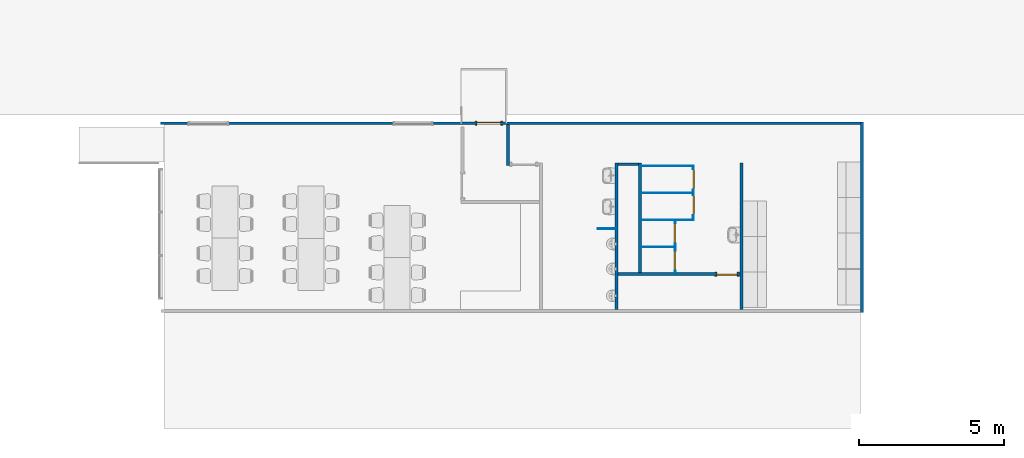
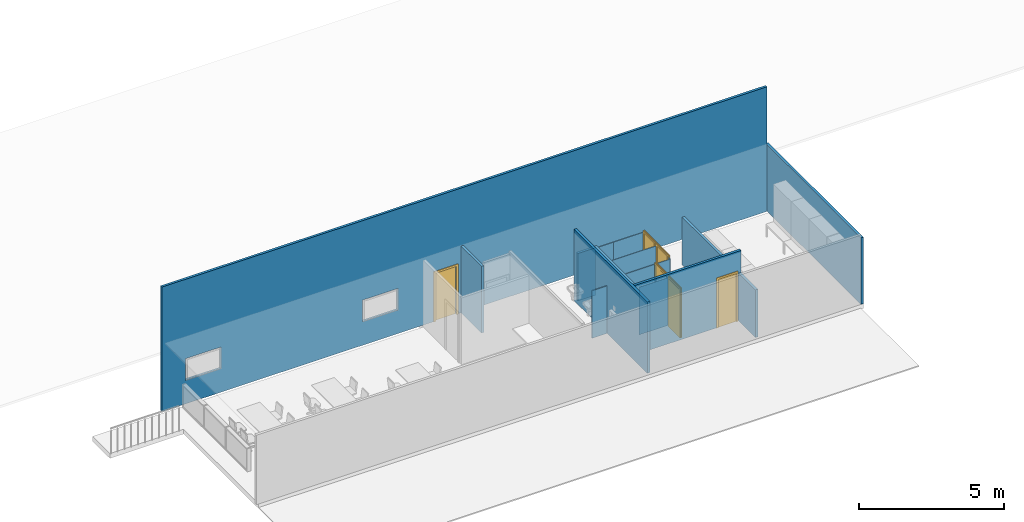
# One storey, part 3 of 6: 16 walls, 6 doors, 9 openings.
"""IFC2X3 building model written with IfcOpenShell, lengths in millimetres."""

from ifc_helpers import new_model, entity, si_unit, converted_unit, derived_unit, direction, frame, frame_2d, origin, origin_2d_with_axis, place, context, subcontext, project, spatial, polyline, rectangle, outline, extrude, clip, halfspace, bounded_halfspace, source, transform, mapped, material, material_list, layer, layer_set, layer_usage, type_object, type_shapes, element, fill, save


model = new_model("IFC2X3")

# Units and contexts
model_context = context("Model", 3, precision=0.01, world=origin(), true_north=direction((4.05803320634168e-15, -1.0)))
body_context = subcontext(model_context, "Body", "Model", "MODEL_VIEW")
ifc_project = project(units=[si_unit("LENGTHUNIT", "METRE", prefix="MILLI"), si_unit("AREAUNIT", "SQUARE_METRE"), si_unit("VOLUMEUNIT", "CUBIC_METRE"), converted_unit("PLANEANGLEUNIT", "DEGREE", entity("IfcRatioMeasure", 0.0174532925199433), si_unit("PLANEANGLEUNIT", "RADIAN"), dimensions=[0, 0, 0, 0, 0, 0, 0]), si_unit("MASSUNIT", "GRAM", prefix="KILO"), derived_unit("MASSDENSITYUNIT", [(si_unit("MASSUNIT", "GRAM", prefix="KILO"), 1), (si_unit("LENGTHUNIT", "METRE"), -3)]), si_unit("TIMEUNIT", "SECOND"), si_unit("FREQUENCYUNIT", "HERTZ"), si_unit("THERMODYNAMICTEMPERATUREUNIT", "DEGREE_CELSIUS"), derived_unit("THERMALTRANSMITTANCEUNIT", [(si_unit("MASSUNIT", "GRAM", prefix="KILO"), 1), (si_unit("THERMODYNAMICTEMPERATUREUNIT", "KELVIN"), -1), (si_unit("TIMEUNIT", "SECOND"), -3)]), derived_unit("VOLUMETRICFLOWRATEUNIT", [(si_unit("LENGTHUNIT", "METRE"), 3), (si_unit("TIMEUNIT", "SECOND"), -1)]), si_unit("ELECTRICCURRENTUNIT", "AMPERE"), si_unit("ELECTRICVOLTAGEUNIT", "VOLT"), si_unit("POWERUNIT", "WATT"), si_unit("FORCEUNIT", "NEWTON", prefix="KILO"), si_unit("ILLUMINANCEUNIT", "LUX"), si_unit("LUMINOUSFLUXUNIT", "LUMEN"), si_unit("LUMINOUSINTENSITYUNIT", "CANDELA"), derived_unit("USERDEFINED", [(si_unit("MASSUNIT", "GRAM", prefix="KILO"), -1), (si_unit("LENGTHUNIT", "METRE"), -2), (si_unit("TIMEUNIT", "SECOND"), 3), (si_unit("LUMINOUSFLUXUNIT", "LUMEN"), 1)]), derived_unit("LINEARVELOCITYUNIT", [(si_unit("LENGTHUNIT", "METRE"), 1), (si_unit("TIMEUNIT", "SECOND"), -1)]), si_unit("PRESSUREUNIT", "PASCAL"), derived_unit("USERDEFINED", [(si_unit("LENGTHUNIT", "METRE"), -2), (si_unit("MASSUNIT", "GRAM", prefix="KILO"), 1), (si_unit("TIMEUNIT", "SECOND"), -2)])], contexts=[model_context])

# Site, building, storey
site_placement = place(None, frame((927466.849349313, 583801.882853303, 0.0), z_axis=(0.0, 0.0, 1.0), x_axis=(-1.0, 0.0, 0.0)))
site = spatial("IfcSite", under=ifc_project, at=site_placement, Name="Surface", CompositionType="ELEMENT")
building_placement = place(site_placement, origin())
building = spatial("IfcBuilding", under=site, at=building_placement, CompositionType="ELEMENT")
storey_placement = place(building_placement, frame((0.0, 0.0, 51027.1066036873)))
storey = spatial("IfcBuildingStorey", under=building, at=storey_placement, Name="2nd floor", CompositionType="ELEMENT", Elevation=51027.1066036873)

# Wall, openings, door
ifc_material_1 = material(Name="Isopenal")
ifc_layer_1 = layer(ifc_material_1, 100.0)
ifc_layer_set_1 = layer_set([ifc_layer_1], Name="Basic Wall:Isopanel")
ifc_layer_usage_1 = layer_usage(ifc_layer_set_1, "AXIS2", "NEGATIVE", 50.0)
wall_type_1 = type_object("IfcWallType", Name="Basic Wall:Isopanel", PredefinedType="STANDARD", material=ifc_layer_set_1)
wall_1_placement = place(storey_placement, frame((-80781.59177989, 11958.2777512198, 0.0), z_axis=(0.0, 0.0, 1.0), x_axis=(-1.0, 0.0, 0.0)))
wall_1 = element("IfcWallStandardCase", 1, at=wall_1_placement, inside=storey, type_object=wall_type_1, material=ifc_layer_usage_1, Name="Basic Wall:Isopanel", ObjectType="Basic Wall:Isopanel", context=body_context, shape_type="SweptSolid", body=[
    extrude(rectangle(XDim=24066.3454969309, YDim=99.9999999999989, at=frame_2d((12033.1727484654, -2.77111666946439e-13), x_axis=(-1.0, 0.0))), origin(), (0.0, 0.0, 1.0), 5239.99999999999),
])
opening_1_placement = place(wall_1_placement, origin())
element("IfcOpeningElement", 2, at=opening_1_placement, cuts=wall_1, Name="Basic Wall:Isopanel", ObjectType="Opening", context=body_context, shape_type="SweptSolid", body=[
    extrude(rectangle(XDim=908.330788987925, YDim=1399.99999999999, at=frame_2d((0.0, 0.0), x_axis=(0.0, 1.0))), frame((1641.55366934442, -202.400000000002, 1445.83460550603), z_axis=(0.0, 1.0, 0.0), x_axis=(-1.0, 0.0, 0.0)), (0.0, 0.0, 1.0), 404.800000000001),
])
opening_2_placement = place(wall_1_placement, origin())
element("IfcOpeningElement", 3, at=opening_2_placement, cuts=wall_1, Name="Basic Wall:Isopanel", ObjectType="Opening", context=body_context, shape_type="SweptSolid", body=[
    extrude(rectangle(XDim=908.330788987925, YDim=1399.99999999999, at=frame_2d((0.0, 0.0), x_axis=(0.0, 1.0))), frame((8681.55366934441, -202.400000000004, 1445.83460550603), z_axis=(0.0, 1.0, 0.0), x_axis=(-1.0, 0.0, 0.0)), (0.0, 0.0, 1.0), 404.800000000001),
])
opening_3_placement = place(wall_1_placement, frame((10880.3370887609, -50.0, 0.0)))
opening_3 = element("IfcOpeningElement", 4, at=opening_3_placement, cuts=wall_1, Name="M_Single-Flush:0813 x 2030mm:1", ObjectType="Opening", context=body_context, shape_type="SweptSolid", body=[
    extrude(rectangle(XDim=813.0, YDim=2030.0, at=frame_2d((1015.0, 406.500000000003), x_axis=(0.0, 1.0))), frame((0.0, 0.0, 0.0), z_axis=(0.0, 1.0, 0.0), x_axis=(0.0, 0.0, 1.0)), (0.0, 0.0, 1.0), 100.0),
])
ifc_material_2 = material(Name="Door - Frame")
ifc_material_3 = material(Name="Door - Panel")
ifc_material_list_1 = material_list([ifc_material_2, ifc_material_3])
ifc_material_list_2 = material_list([ifc_material_2, ifc_material_3])
door_style_1 = type_object("IfcDoorStyle", Name="0813 x 2030mm", ConstructionType="NOTDEFINED", OperationType="SINGLE_SWING_RIGHT", ParameterTakesPrecedence=False, Sizeable=False, material=ifc_material_list_2)
shared_shape_1 = source(origin(), body_context, "Body", "SweptSolid", [
    extrude(outline(polyline([(-482.5, -1072.0), (482.5, -1072.0), (482.5, 1034.0), (406.5, 1034.0), (406.5, -996.0), (-406.5, -996.0), (-406.5, 1034.0), (-482.5, 1034.0), (-482.5, -1072.0)])), frame((406.500000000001, 100.0, 1034.0), z_axis=(0.0, 1.0, 0.0), x_axis=(1.0, 0.0, 0.0)), (0.0, 0.0, 1.0), 24.9999999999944),
    extrude(outline(polyline([(-1072.0, -482.499999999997), (1034.0, -482.499999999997), (1034.0, -406.500000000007), (-996.0, -406.500000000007), (-996.0, 406.500000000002), (1034.0, 406.500000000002), (1034.0, 482.500000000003), (-1072.0, 482.500000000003), (-1072.0, -482.499999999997)])), frame((406.500000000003, -25.0, 1034.0), z_axis=(0.0, 1.0, 0.0), x_axis=(0.0, 0.0, -1.0)), (0.0, 0.0, 1.0), 25.0000000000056),
    extrude(rectangle(XDim=51.0, YDim=813.0, at=origin_2d_with_axis()), frame((406.500000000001, 74.4999999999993, 0.0), z_axis=(0.0, 0.0, 1.0), x_axis=(0.0, 1.0, 0.0)), (0.0, 0.0, 1.0), 2030.0),
])
type_shapes(door_style_1, [shared_shape_1])
door_1_placement = place(opening_3_placement, origin())
door_1 = element("IfcDoor", 5, at=door_1_placement, inside=storey, type_object=door_style_1, material=ifc_material_list_1, Name="M_Single-Flush:0813 x 2030mm", ObjectType="0813 x 2030mm", OverallHeight=2030.0, OverallWidth=813.000000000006, context=body_context, shape_type="MappedRepresentation", body=[
    mapped(shared_shape_1, transform((0.0, 0.0, 0.0), scale=1.0)),
])
fill(opening_3, door_1)

# Walls
ifc_material_4 = material(Name="Partition")
ifc_layer_2 = layer(ifc_material_4, 100.0)
ifc_layer_set_2 = layer_set([ifc_layer_2], Name="Basic Wall:wall 90 Partition")
ifc_layer_usage_2 = layer_usage(ifc_layer_set_2, "AXIS2", "NEGATIVE", 50.0)
wall_type_2 = type_object("IfcWallType", Name="Basic Wall:wall 90 Partition", PredefinedType="STANDARD", material=ifc_layer_set_2)
wall_2_placement = place(storey_placement, frame((-104897.937276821, 18469.2777512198, 0.0), z_axis=(0.0, 0.0, 1.0), x_axis=(0.0, -1.0, 0.0)))
element("IfcWallStandardCase", 6, at=wall_2_placement, inside=storey, type_object=wall_type_2, material=ifc_layer_usage_2, Name="Basic Wall:wall 90 Partition", ObjectType="Basic Wall:wall 90 Partition", context=body_context, shape_type="Clipping", body=[
    clip(extrude(rectangle(XDim=6560.9999999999, YDim=100.000000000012, at=frame_2d((3280.49999999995, 6.00408611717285e-13), x_axis=(-1.0, 0.0))), origin(), (0.0, 0.0, 1.0), 2799.99999999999), halfspace(frame((0.0, -50.0, 2800.0), z_axis=(0.0, 0.0, 1.0), x_axis=(0.0, 1.0, 0.0)), False)),
])
ifc_layer_usage_3 = layer_usage(ifc_layer_set_2, "AXIS2", "POSITIVE", -50.0)
wall_3_placement = place(storey_placement, frame((-96458.8066426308, 13319.2679026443, 0.0), z_axis=(0.0, 0.0, 1.0), x_axis=(0.0, 1.0, 0.0)))
element("IfcWallStandardCase", 7, at=wall_3_placement, inside=storey, type_object=wall_type_2, material=ifc_layer_usage_3, Name="Basic Wall:wall 90 Partition", ObjectType="Basic Wall:wall 90 Partition", context=body_context, shape_type="SweptSolid", body=[
    extrude(rectangle(XDim=5050.00984857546, YDim=100.000000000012, at=frame_2d((2525.00492428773, 0.0), x_axis=(-1.0, 0.0))), origin(), (0.0, 0.0, 1.0), 3000.00000000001),
])
ifc_layer_usage_4 = layer_usage(ifc_layer_set_2, "AXIS2", "POSITIVE", -50.0)
wall_4_placement = place(storey_placement, frame((-97258.8066426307, 13319.2679026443, 0.0), z_axis=(0.0, 0.0, 1.0), x_axis=(0.0, 1.0, 0.0)))
element("IfcWallStandardCase", 8, at=wall_4_placement, inside=storey, type_object=wall_type_2, material=ifc_layer_usage_4, Name="Basic Wall:wall 90 Partition", ObjectType="Basic Wall:wall 90 Partition", context=body_context, shape_type="SweptSolid", body=[
    extrude(rectangle(XDim=3780.00000000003, YDim=100.000000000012, at=frame_2d((1890.00000000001, 0.0), x_axis=(-1.0, 0.0))), origin(), (0.0, 0.0, 1.0), 2000.0),
])
ifc_layer_usage_5 = layer_usage(ifc_layer_set_2, "AXIS2", "NEGATIVE", 50.0)
wall_5_placement = place(storey_placement, frame((-96508.8066426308, 13369.2679026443, 0.0), z_axis=(0.0, 0.0, 1.0), x_axis=(-1.0, 0.0, 0.0)))
element("IfcWallStandardCase", 9, at=wall_5_placement, inside=storey, type_object=wall_type_2, material=ifc_layer_usage_5, Name="Basic Wall:wall 90 Partition", ObjectType="Basic Wall:wall 90 Partition", context=body_context, shape_type="SweptSolid", body=[
    extrude(rectangle(XDim=699.999999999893, YDim=99.9999999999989, at=frame_2d((349.999999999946, -2.45137243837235e-13), x_axis=(-1.0, 0.0))), origin(), (0.0, 0.0, 1.0), 2000.0),
])
ifc_layer_usage_6 = layer_usage(ifc_layer_set_2, "AXIS2", "POSITIVE", -50.0)
wall_6_placement = place(storey_placement, frame((-100758.819923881, 13319.2679026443, 0.0), z_axis=(0.0, 0.0, 1.0), x_axis=(0.0, 1.0, 0.0)))
element("IfcWallStandardCase", 10, at=wall_6_placement, inside=storey, type_object=wall_type_2, material=ifc_layer_usage_6, Name="Basic Wall:wall 90 Partition", ObjectType="Basic Wall:wall 90 Partition", context=body_context, shape_type="SweptSolid", body=[
    extrude(rectangle(XDim=5050.00984857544, YDim=100.000000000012, at=frame_2d((2525.00492428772, 0.0), x_axis=(-1.0, 0.0))), origin(), (0.0, 0.0, 1.0), 2000.0),
])
ifc_layer_usage_7 = layer_usage(ifc_layer_set_2, "AXIS2", "POSITIVE", -50.0)
wall_7_placement = place(storey_placement, frame((-92724.9288686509, 12008.2777512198, 0.0), z_axis=(0.0, 0.0, 1.0), x_axis=(0.0, 1.0, 0.0)))
element("IfcWallStandardCase", 11, at=wall_7_placement, inside=storey, type_object=wall_type_2, material=ifc_layer_usage_7, Name="Basic Wall:wall 90 Partition", ObjectType="Basic Wall:wall 90 Partition", context=body_context, shape_type="SweptSolid", body=[
    extrude(rectangle(XDim=1410.99015142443, YDim=100.000000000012, at=frame_2d((705.495075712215, 0.0), x_axis=(-1.0, 0.0))), origin(), (0.0, 0.0, 1.0), 2799.99999999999),
])

# Wall, openings, door
ifc_layer_usage_8 = layer_usage(ifc_layer_set_2, "AXIS2", "NEGATIVE", 50.0)
wall_8_placement = place(storey_placement, frame((-96508.8066426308, 17149.2679026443, 0.0), z_axis=(0.0, 0.0, 1.0), x_axis=(-1.0, 0.0, 0.0)))
wall_8 = element("IfcWallStandardCase", 12, at=wall_8_placement, inside=storey, type_object=wall_type_2, material=ifc_layer_usage_8, Name="Basic Wall:wall 90 Partition", ObjectType="Basic Wall:wall 90 Partition", context=body_context, shape_type="Clipping", body=[
    clip(clip(extrude(rectangle(XDim=4300.01328125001, YDim=99.9999999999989, at=frame_2d((2150.00664062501, -2.41584530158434e-13), x_axis=(-1.0, 0.0))), origin(), (0.0, 0.0, 1.0), 2919.99999999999), bounded_halfspace(frame((4200.01328125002, 50.0, 2000.0), z_axis=(-1.0, 0.0, 0.0), x_axis=(0.0, -1.0, 0.0)), True, frame((4200.01328125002, 50.0, 2000.0), z_axis=(-1.0, 0.0, 0.0), x_axis=(0.0, -1.0, 0.0)), polyline([(0.0, 0.0), (0.0, -2000.0), (100.0, -2000.0), (100.0, 0.0), (0.0, 0.0)]))), bounded_halfspace(frame((4200.01328125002, -50.0, 2000.0)), True, frame((4200.01328125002, -50.0, 2000.0)), polyline([(0.0, 0.0), (100.0, 0.0), (100.0, 100.0), (0.0, 100.0), (0.0, 0.0)]))),
])
opening_4_placement = place(wall_8_placement, origin())
element("IfcOpeningElement", 13, at=opening_4_placement, cuts=wall_8, Name="Basic Wall:wall 90 Partition", ObjectType="Opening", context=body_context, shape_type="SweptSolid", body=[
    extrude(rectangle(XDim=2030.0, YDim=21.999999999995, at=frame_2d((0.0, 4.32009983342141e-12), x_axis=(0.0, 1.0))), frame((1969.0, 113.992495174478, 1015.0), z_axis=(0.0, 1.0, 0.0), x_axis=(1.0, 0.0, 0.0)), (0.0, 0.0, 1.0), 699.999999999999),
])
opening_5_placement = place(wall_8_placement, frame((4100.01328125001, 50.0, 0.0)))
opening_5 = element("IfcOpeningElement", 14, at=opening_5_placement, cuts=wall_8, Name="M_Single-Flush:700 x 2030mm:1", ObjectType="Opening", context=body_context, shape_type="SweptSolid", body=[
    extrude(rectangle(XDim=700.0, YDim=2030.0, at=frame_2d((1015.0, 350.000000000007), x_axis=(0.0, -1.0))), frame((0.0, 0.0, 0.0), z_axis=(0.0, -1.0, 0.0), x_axis=(0.0, 0.0, 1.0)), (0.0, 0.0, 1.0), 100.0),
])
ifc_material_list_3 = material_list([ifc_material_2, ifc_material_3])
ifc_material_list_4 = material_list([ifc_material_2, ifc_material_3])
door_style_2 = type_object("IfcDoorStyle", Name="700 x 2030mm", ConstructionType="NOTDEFINED", OperationType="SINGLE_SWING_LEFT", ParameterTakesPrecedence=False, Sizeable=False, material=ifc_material_list_4)
shared_shape_2 = source(origin(), body_context, "Body", "SweptSolid", [
    extrude(outline(polyline([(-426.0, -1072.0), (426.0, -1072.0), (426.0, 1034.0), (350.0, 1034.0), (350.0, -996.0), (-350.0, -996.0), (-350.0, 1034.0), (-426.0, 1034.0), (-426.0, -1072.0)])), frame((350.0, 125.0, 1034.0), z_axis=(0.0, -1.0, 0.0), x_axis=(-1.0, 0.0, 0.0)), (0.0, 0.0, 1.0), 24.9999999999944),
    extrude(outline(polyline([(-1072.0, -426.0), (1034.0, -426.0), (1034.0, -350.0), (-996.0, -350.0), (-996.0, 350.0), (1034.0, 350.0), (1034.0, 426.0), (-1072.0, 426.0), (-1072.0, -426.0)])), frame((350.0, 0.0, 1034.0), z_axis=(0.0, -1.0, 0.0), x_axis=(0.0, 0.0, -1.0)), (0.0, 0.0, 1.0), 25.0000000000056),
    extrude(rectangle(XDim=700.0, YDim=51.0, at=origin_2d_with_axis()), frame((350.0, 74.4999999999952, 0.0)), (0.0, 0.0, 1.0), 2030.0),
])
type_shapes(door_style_2, [shared_shape_2])
door_2_placement = place(opening_5_placement, frame((0.0, 0.0, 0.0), z_axis=(0.0, 0.0, 1.0), x_axis=(-1.0, 0.0, 0.0)))
door_2 = element("IfcDoor", 15, at=door_2_placement, inside=storey, type_object=door_style_2, material=ifc_material_list_3, Name="M_Single-Flush:700 x 2030mm", ObjectType="700 x 2030mm", OverallHeight=2030.0, OverallWidth=700.000000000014, context=body_context, shape_type="MappedRepresentation", body=[
    mapped(shared_shape_2, transform((0.0, 0.0, 0.0), scale=1.0)),
])
fill(opening_5, door_2)

# Wall
ifc_layer_3 = layer(ifc_material_4, 22.0)
ifc_layer_set_3 = layer_set([ifc_layer_3], Name="Basic Wall:22 Partition")
ifc_layer_usage_9 = layer_usage(ifc_layer_set_3, "AXIS2", "POSITIVE", -11.0)
wall_type_3 = type_object("IfcWallType", Name="Basic Wall:22 Partition", PredefinedType="STANDARD", material=ifc_layer_set_3)
wall_9_placement = place(storey_placement, frame((-97905.4734789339, 13430.2679026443, 0.0)))
element("IfcWallStandardCase", 16, at=wall_9_placement, inside=storey, type_object=wall_type_3, material=ifc_layer_usage_9, Name="Basic Wall:22 Partition", ObjectType="Basic Wall:22 Partition", context=body_context, shape_type="SweptSolid", body=[
    extrude(rectangle(XDim=596.666836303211, YDim=21.9999999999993, at=frame_2d((298.333418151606, 7.99360577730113e-15), x_axis=(-1.0, 0.0))), origin(), (0.0, 0.0, 1.0), 2000.0),
])

# Wall, openings, doors
ifc_layer_usage_10 = layer_usage(ifc_layer_set_3, "AXIS2", "NEGATIVE", 11.0)
wall_10_placement = place(storey_placement, frame((-99097.8066426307, 13419.2679026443, 0.0), z_axis=(0.0, 0.0, 1.0), x_axis=(0.0, 1.0, 0.0)))
wall_10 = element("IfcWallStandardCase", 17, at=wall_10_placement, inside=storey, type_object=wall_type_3, material=ifc_layer_usage_10, Name="Basic Wall:22 Partition", ObjectType="Basic Wall:22 Partition", context=body_context, shape_type="SweptSolid", body=[
    extrude(rectangle(XDim=1882.00428216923, YDim=21.999999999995, at=frame_2d((941.002141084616, 0.0), x_axis=(-1.0, 0.0))), origin(), (0.0, 0.0, 1.0), 2000.0),
])
opening_6_placement = place(wall_10_placement, frame((1712.00213373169, 11.0, 0.0)))
opening_6 = element("IfcOpeningElement", 18, at=opening_6_placement, cuts=wall_10, Name="M_Single-Flush:700 x 2030mm:1", ObjectType="Opening", context=body_context, shape_type="SweptSolid", body=[
    extrude(rectangle(XDim=700.0, YDim=2030.0, at=frame_2d((1015.0, 350.000000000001), x_axis=(0.0, -1.0))), frame((0.0, 0.0, 0.0), z_axis=(0.0, -1.0, 0.0), x_axis=(0.0, 0.0, 1.0)), (0.0, 0.0, 1.0), 22.0),
])
opening_7_placement = place(wall_10_placement, frame((826.001066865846, 11.0, 0.0)))
opening_7 = element("IfcOpeningElement", 19, at=opening_7_placement, cuts=wall_10, Name="M_Single-Flush:700 x 2030mm:1", ObjectType="Opening", context=body_context, shape_type="SweptSolid", body=[
    extrude(rectangle(XDim=700.0, YDim=2030.0, at=frame_2d((1015.0, 350.0), x_axis=(0.0, -1.0))), frame((0.0, 0.0, 0.0), z_axis=(0.0, -1.0, 0.0), x_axis=(0.0, 0.0, 1.0)), (0.0, 0.0, 1.0), 22.0),
])
ifc_material_list_5 = material_list([ifc_material_2, ifc_material_3])
ifc_material_list_6 = material_list([ifc_material_2, ifc_material_3])
door_style_3 = type_object("IfcDoorStyle", Name="700 x 2030mm", ConstructionType="NOTDEFINED", OperationType="SINGLE_SWING_LEFT", ParameterTakesPrecedence=False, Sizeable=False, material=ifc_material_list_6)
shared_shape_3 = source(origin(), body_context, "Body", "SweptSolid", [
    extrude(outline(polyline([(-426.0, -1072.0), (426.0, -1072.0), (426.0, 1034.0), (350.0, 1034.0), (350.0, -996.0), (-350.0, -996.0), (-350.0, 1034.0), (-426.0, 1034.0), (-426.0, -1072.0)])), frame((350.0, 47.0, 1034.0), z_axis=(0.0, -1.0, 0.0), x_axis=(-1.0, 0.0, 0.0)), (0.0, 0.0, 1.0), 24.9999999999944),
    extrude(outline(polyline([(-1072.0, -426.0), (1034.0, -426.0), (1034.0, -350.0), (-996.0, -350.0), (-996.0, 350.0), (1034.0, 350.0), (1034.0, 426.0), (-1072.0, 426.0), (-1072.0, -426.0)])), frame((350.0, 0.0, 1034.0), z_axis=(0.0, -1.0, 0.0), x_axis=(0.0, 0.0, -1.0)), (0.0, 0.0, 1.0), 25.0000000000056),
    extrude(rectangle(XDim=700.0, YDim=51.0, at=frame_2d((0.0, 1.77635683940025e-15), x_axis=(1.0, 0.0))), frame((350.0, -3.50000000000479, 0.0)), (0.0, 0.0, 1.0), 2030.0),
])
type_shapes(door_style_3, [shared_shape_3])
door_3_placement = place(opening_6_placement, frame((0.0, 0.0, 0.0), z_axis=(0.0, 0.0, 1.0), x_axis=(-1.0, 0.0, 0.0)))
door_3 = element("IfcDoor", 20, at=door_3_placement, inside=storey, type_object=door_style_3, material=ifc_material_list_5, Name="M_Single-Flush:700 x 2030mm", ObjectType="700 x 2030mm", OverallHeight=2030.0, OverallWidth=699.999999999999, context=body_context, shape_type="MappedRepresentation", body=[
    mapped(shared_shape_3, transform((0.0, 0.0, 0.0), scale=1.0)),
])
fill(opening_6, door_3)
ifc_material_list_7 = material_list([ifc_material_2, ifc_material_3])
door_4_placement = place(opening_7_placement, frame((0.0, 0.0, 0.0), z_axis=(0.0, 0.0, 1.0), x_axis=(-1.0, 0.0, 0.0)))
door_4 = element("IfcDoor", 21, at=door_4_placement, inside=storey, type_object=door_style_3, material=ifc_material_list_7, Name="M_Single-Flush:700 x 2030mm", ObjectType="700 x 2030mm", OverallHeight=2030.0, OverallWidth=699.999999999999, context=body_context, shape_type="MappedRepresentation", body=[
    mapped(shared_shape_3, transform((0.0, 0.0, 0.0), scale=1.0)),
])
fill(opening_7, door_4)

# Walls
ifc_layer_usage_11 = layer_usage(ifc_layer_set_3, "AXIS2", "NEGATIVE", 11.0)
wall_11_placement = place(storey_placement, frame((-97318.8066426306, 14360.270036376, 0.0), z_axis=(0.0, 0.0, 1.0), x_axis=(-1.0, 0.0, 0.0)))
element("IfcWallStandardCase", 22, at=wall_11_placement, inside=storey, type_object=wall_type_3, material=ifc_layer_usage_11, Name="Basic Wall:22 Partition", ObjectType="Basic Wall:22 Partition", context=body_context, shape_type="SweptSolid", body=[
    extrude(rectangle(XDim=1768.0000000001, YDim=21.9999999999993, at=frame_2d((884.00000000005, 1.86517468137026e-14), x_axis=(-1.0, 0.0))), origin(), (0.0, 0.0, 1.0), 2000.0),
])
ifc_layer_usage_12 = layer_usage(ifc_layer_set_3, "AXIS2", "NEGATIVE", 11.0)
wall_12_placement = place(storey_placement, frame((-97318.8066426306, 15290.2721848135, 0.0), z_axis=(0.0, 0.0, 1.0), x_axis=(-1.0, 0.0, 0.0)))
element("IfcWallStandardCase", 23, at=wall_12_placement, inside=storey, type_object=wall_type_3, material=ifc_layer_usage_12, Name="Basic Wall:22 Partition", ObjectType="Basic Wall:22 Partition", context=body_context, shape_type="SweptSolid", body=[
    extrude(rectangle(XDim=1768.0000000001, YDim=21.9999999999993, at=frame_2d((884.00000000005, 1.86517468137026e-14), x_axis=(-1.0, 0.0))), origin(), (0.0, 0.0, 1.0), 2000.0),
])
ifc_layer_usage_13 = layer_usage(ifc_layer_set_3, "AXIS2", "NEGATIVE", 11.0)
wall_13_placement = place(storey_placement, frame((-97318.8066426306, 16220.2743332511, 0.0), z_axis=(0.0, 0.0, 1.0), x_axis=(-1.0, 0.0, 0.0)))
element("IfcWallStandardCase", 24, at=wall_13_placement, inside=storey, type_object=wall_type_3, material=ifc_layer_usage_13, Name="Basic Wall:22 Partition", ObjectType="Basic Wall:22 Partition", context=body_context, shape_type="SweptSolid", body=[
    extrude(rectangle(XDim=1148.0, YDim=21.9999999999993, at=frame_2d((573.999999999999, 9.41469124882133e-14), x_axis=(-1.0, 0.0))), origin(), (0.0, 0.0, 1.0), 2000.0),
])
ifc_layer_usage_14 = layer_usage(ifc_layer_set_3, "AXIS2", "NEGATIVE", 11.0)
wall_14_placement = place(storey_placement, frame((-97318.8066426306, 13430.2679026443, 0.0), z_axis=(0.0, 0.0, 1.0), x_axis=(-1.0, 0.0, 0.0)))
element("IfcWallStandardCase", 25, at=wall_14_placement, inside=storey, type_object=wall_type_3, material=ifc_layer_usage_14, Name="Basic Wall:22 Partition", ObjectType="Basic Wall:22 Partition", context=body_context, shape_type="SweptSolid", body=[
    extrude(rectangle(XDim=1768.0000000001, YDim=21.9999999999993, at=frame_2d((884.00000000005, 1.86517468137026e-14), x_axis=(-1.0, 0.0))), origin(), (0.0, 0.0, 1.0), 2000.0),
])

# Wall, openings, doors
ifc_layer_usage_15 = layer_usage(ifc_layer_set_3, "AXIS2", "NEGATIVE", 11.0)
wall_15_placement = place(storey_placement, frame((-98477.8066426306, 15301.2721848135, 0.0), z_axis=(0.0, 0.0, 1.0), x_axis=(0.0, 1.0, 0.0)))
wall_15 = element("IfcWallStandardCase", 26, at=wall_15_placement, inside=storey, type_object=wall_type_3, material=ifc_layer_usage_15, Name="Basic Wall:22 Partition", ObjectType="Basic Wall:22 Partition", context=body_context, shape_type="SweptSolid", body=[
    extrude(rectangle(XDim=1797.9957178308, YDim=21.999999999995, at=frame_2d((898.997858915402, 0.0), x_axis=(-1.0, 0.0))), origin(), (0.0, 0.0, 1.0), 2000.0),
])
opening_8_placement = place(wall_15_placement, frame((1034.00322265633, -11.0, 0.0)))
opening_8 = element("IfcOpeningElement", 27, at=opening_8_placement, cuts=wall_15, Name="M_Single-Flush:700 x 2030mm:1", ObjectType="Opening", context=body_context, shape_type="SweptSolid", body=[
    extrude(rectangle(XDim=700.0, YDim=2030.0, at=frame_2d((1015.0, 350.0), x_axis=(0.0, 1.0))), frame((0.0, 0.0, 0.0), z_axis=(0.0, 1.0, 0.0), x_axis=(0.0, 0.0, 1.0)), (0.0, 0.0, 1.0), 22.0),
])
opening_9_placement = place(wall_15_placement, frame((104.001074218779, -11.0, 0.0)))
opening_9 = element("IfcOpeningElement", 28, at=opening_9_placement, cuts=wall_15, Name="M_Single-Flush:700 x 2030mm:1", ObjectType="Opening", context=body_context, shape_type="SweptSolid", body=[
    extrude(rectangle(XDim=700.0, YDim=2030.0, at=frame_2d((1015.0, 350.0), x_axis=(0.0, 1.0))), frame((0.0, 0.0, 0.0), z_axis=(0.0, 1.0, 0.0), x_axis=(0.0, 0.0, 1.0)), (0.0, 0.0, 1.0), 22.0),
])
ifc_material_list_8 = material_list([ifc_material_2, ifc_material_3])
ifc_material_list_9 = material_list([ifc_material_2, ifc_material_3])
door_style_4 = type_object("IfcDoorStyle", Name="700 x 2030mm", ConstructionType="NOTDEFINED", OperationType="SINGLE_SWING_RIGHT", ParameterTakesPrecedence=False, Sizeable=False, material=ifc_material_list_9)
shared_shape_4 = source(origin(), body_context, "Body", "SweptSolid", [
    extrude(outline(polyline([(-426.0, -1072.0), (426.0, -1072.0), (426.0, 1034.0), (350.0, 1034.0), (350.0, -996.0), (-350.0, -996.0), (-350.0, 1034.0), (-426.0, 1034.0), (-426.0, -1072.0)])), frame((350.0, 22.0, 1034.0), z_axis=(0.0, 1.0, 0.0), x_axis=(1.0, 0.0, 0.0)), (0.0, 0.0, 1.0), 24.9999999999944),
    extrude(outline(polyline([(-1072.0, -426.0), (1034.0, -426.0), (1034.0, -350.0), (-996.0, -350.0), (-996.0, 350.0), (1034.0, 350.0), (1034.0, 426.0), (-1072.0, 426.0), (-1072.0, -426.0)])), frame((350.0, -25.0, 1034.0), z_axis=(0.0, 1.0, 0.0), x_axis=(0.0, 0.0, -1.0)), (0.0, 0.0, 1.0), 25.0000000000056),
    extrude(rectangle(XDim=51.0, YDim=700.0, at=origin_2d_with_axis()), frame((350.0, -3.50000000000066, 0.0), z_axis=(0.0, 0.0, 1.0), x_axis=(0.0, 1.0, 0.0)), (0.0, 0.0, 1.0), 2030.0),
])
type_shapes(door_style_4, [shared_shape_4])
door_5_placement = place(opening_8_placement, origin())
door_5 = element("IfcDoor", 29, at=door_5_placement, inside=storey, type_object=door_style_4, material=ifc_material_list_8, Name="M_Single-Flush:700 x 2030mm", ObjectType="700 x 2030mm", OverallHeight=2030.0, OverallWidth=699.999999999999, context=body_context, shape_type="MappedRepresentation", body=[
    mapped(shared_shape_4, transform((0.0, 0.0, 0.0), scale=1.0)),
])
fill(opening_8, door_5)
ifc_material_list_10 = material_list([ifc_material_2, ifc_material_3])
door_6_placement = place(opening_9_placement, origin())
door_6 = element("IfcDoor", 30, at=door_6_placement, inside=storey, type_object=door_style_4, material=ifc_material_list_10, Name="M_Single-Flush:700 x 2030mm", ObjectType="700 x 2030mm", OverallHeight=2030.0, OverallWidth=699.999999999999, context=body_context, shape_type="MappedRepresentation", body=[
    mapped(shared_shape_4, transform((0.0, 0.0, 0.0), scale=1.0)),
])
fill(opening_9, door_6)

# Wall
ifc_layer_4 = layer(ifc_material_4, 30.0)
ifc_layer_set_4 = layer_set([ifc_layer_4], Name="Basic Wall:wall 50 Partition")
ifc_layer_usage_16 = layer_usage(ifc_layer_set_4, "AXIS2", "NEGATIVE", 15.0)
wall_type_4 = type_object("IfcWallType", Name="Basic Wall:wall 50 Partition", PredefinedType="STANDARD", material=ifc_layer_set_4)
wall_16_placement = place(storey_placement, frame((-96408.8066426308, 15586.2721848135, 0.0)))
element("IfcWallStandardCase", 31, at=wall_16_placement, inside=storey, type_object=wall_type_4, material=ifc_layer_usage_16, Name="Basic Wall:wall 50 Partition", ObjectType="Basic Wall:wall 50 Partition", context=body_context, shape_type="SweptSolid", body=[
    extrude(rectangle(XDim=600.000000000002, YDim=30.0000000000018, at=frame_2d((300.000000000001, 2.30926389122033e-14), x_axis=(-1.0, 0.0))), origin(), (0.0, 0.0, 1.0), 2000.0),
])

save(model, "model.ifc")
